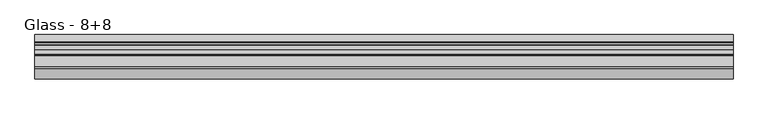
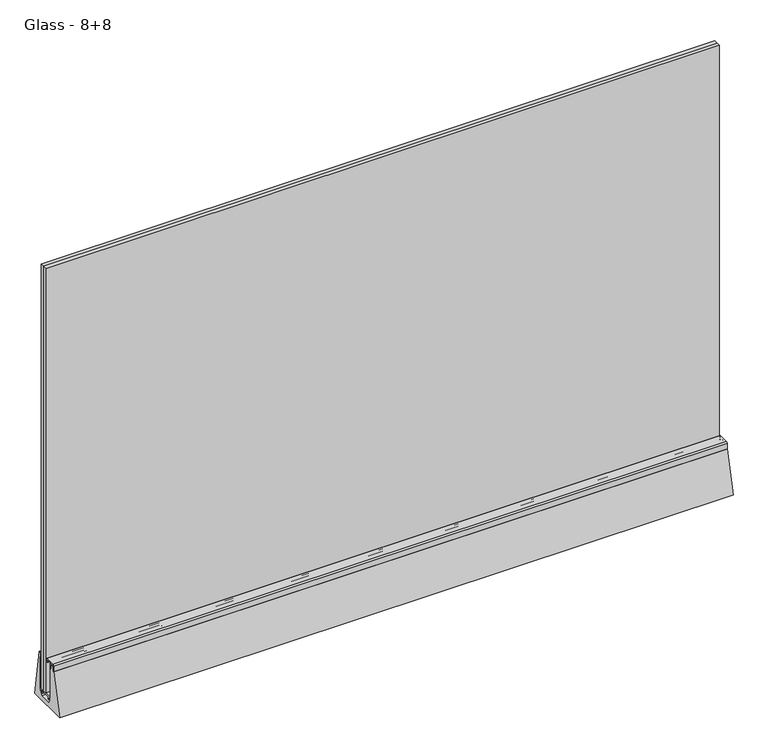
"""IFC4 building model written with IfcOpenShell, lengths in millimetres: proxy geometry, Construction_Slope-Glazing_Faraone_Linea-3-Mini : Glass - 8+8."""

from ifc_helpers import new_model, si_unit, point, frame, frame_2d, origin, place, context, project, spatial, polyline, circle_curve, trimmed, segment, composite_curve, outline, extrude, source, transform, mapped, element, save


def glass_8_8_7e68fb23(model_context):
    return source(origin(), model_context, "Body", "SweptSolid", [
        extrude(outline(polyline([(750.0, 23.8514845), (750.0, 15.9014845), (-750.0, 15.9014845), (-750.0, 23.8514845), (750.0, 23.8514845)])), frame((0.0, 0.0, 26.5097848), z_axis=(0.0, 0.0, 1.0), x_axis=(1.0, 0.0, 0.0)), (0.0, 0.0, 1.0), 1000.0),
        extrude(outline(polyline([(750.0, 14.3014845), (750.0, 6.3514845), (-750.0, 6.3514845), (-750.0, 14.3014845), (750.0, 14.3014845)])), frame((0.0, 0.0, 26.5097848), z_axis=(0.0, 0.0, 1.0), x_axis=(1.0, 0.0, 0.0)), (0.0, 0.0, 1.0), 1000.0),
        extrude(outline(polyline([(21.0027951, 21.0097848), (22.0027951, 21.0097848), (21.0027951, 17.5097848), (18.5027951, 17.5097848), (18.5027951, 23.5097848), (-3.4544609, 23.5097848), (-3.4544609, 17.5097848), (-5.9544609, 17.5097848), (-6.9542334, 21.0097848), (-5.9544609, 21.0097848), (-5.9544609, 23.5100571), (-8.9999952, 23.5100571), (-8.9999952, 26.5097848), (23.8514845, 26.5097848), (23.8514845, 98.7598945), (26.4955126, 98.7598945), (26.4955126, 23.5097848), (21.0027951, 23.5097848), (21.0027951, 21.0097848)])), frame((-750.0, 0.0, 0.0), z_axis=(1.0, 0.0, 0.0), x_axis=(0.0, 1.0, 0.0)), (0.0, 0.0, 1.0), 1500.0),
        extrude(outline(composite_curve([segment(trimmed(circle_curve(frame_2d((2.3741707, 109.8933639)), 0.5), [point((2.3741707, 110.3933639))], [point((2.8741707, 109.8933639))], False, "CARTESIAN"), True, "CONTINUOUS"), segment(polyline([(2.8741707, 109.8933639), (2.8741707, 107.7847909), (2.080513, 107.7847909), (2.080513, 109.0323883), (1.1824202, 109.0323883)]), True, "CONTINUOUS"), segment(trimmed(circle_curve(frame_2d((1.1824202, 108.5241255)), 0.5082627), [point((1.1824202, 109.0323883))], [point((0.6741575, 108.5241255))], True, "CARTESIAN"), True, "CONTINUOUS"), segment(polyline([(0.6741575, 108.5241255), (0.6741575, 104.040651)]), True, "CONTINUOUS"), segment(trimmed(circle_curve(frame_2d((1.1824202, 104.040651)), 0.5082627), [point((0.6741575, 104.040651))], [point((1.1824202, 103.5323883))], True, "CARTESIAN"), True, "CONTINUOUS"), segment(polyline([(1.1824202, 103.5323883), (2.080513, 103.5323883), (2.080513, 104.7799856), (2.8741707, 104.7799856), (2.8741707, 102.8323883)]), True, "CONTINUOUS"), segment(trimmed(circle_curve(frame_2d((2.3741707, 102.8323883)), 0.5), [point((2.8741707, 102.8323883))], [point((2.3741707, 102.3323883))], False, "CARTESIAN"), True, "CONTINUOUS"), segment(polyline([(2.3741707, 102.3323883), (-0.0258423, 102.3323883)]), True, "CONTINUOUS"), segment(trimmed(circle_curve(frame_2d((-0.0258423, 102.8323885)), 0.5000003), [point((-0.0258423, 102.3323883))], [point((-0.5258425, 102.8323885))], False, "CARTESIAN"), True, "CONTINUOUS"), segment(polyline([(-0.5258425, 102.8323885), (-0.5258425, 108.3933644)]), True, "CONTINUOUS"), segment(trimmed(circle_curve(frame_2d((-1.0258425, 108.3933644)), 0.5), [point((-0.5258425, 108.3933644))], [point((-1.0258425, 108.8933644))], True, "CARTESIAN"), True, "CONTINUOUS"), segment(polyline([(-1.0258425, 108.8933644), (-11.5017337, 108.8933644), (-11.5017337, 95.1380316), (-13.5888351, 95.1380316), (-13.5888351, 100.1818111), (-12.7017337, 100.1818111), (-12.7017337, 108.0933644)]), True, "CONTINUOUS"), segment(trimmed(circle_curve(frame_2d((-12.7017337, 108.4933644)), 0.4), [point((-12.7017337, 108.0933644))], [point((-12.7017337, 108.8933644))], True, "CARTESIAN"), True, "CONTINUOUS"), segment(polyline([(-12.7017337, 108.8933644), (-22.0267873, 108.8933644)]), True, "CONTINUOUS"), segment(trimmed(circle_curve(frame_2d((-22.0267873, 107.3933642)), 1.5000003), [point((-22.0267873, 108.8933644))], [point((-23.5267875, 107.3933642))], True, "CARTESIAN"), True, "CONTINUOUS"), segment(polyline([(-23.5267875, 107.3933642), (-23.5267875, 100.1818111), (-22.6462885, 100.1818111), (-22.6462885, 95.1374302), (-24.7267875, 95.1382255), (-24.7267875, 107.3933639)]), True, "CONTINUOUS"), segment(trimmed(circle_curve(frame_2d((-21.7267875, 107.3933639)), 3.0), [point((-24.7267875, 107.3933639))], [point((-21.7267875, 110.3933639))], False, "CARTESIAN"), True, "CONTINUOUS"), segment(polyline([(-21.7267875, 110.3933639), (2.3741707, 110.3933639)]), True, "CONTINUOUS")], self_intersect=False)), frame((-750.0, 0.0, 0.0), z_axis=(1.0, 0.0, 0.0), x_axis=(0.0, 1.0, 0.0)), (0.0, 0.0, 1.0), 1500.0),
        extrude(outline(composite_curve([segment(polyline([(-47.4987038, 0.0), (-24.7300487, 95.1378278), (-22.4744479, 95.1378278), (-22.4744479, 103.0050058), (-13.7606757, 103.0050058), (-13.7606757, 95.1380316), (-11.4999492, 95.1380316), (-11.4999492, 23.5100853), (-6.5000411, 23.5100853), (-6.5000411, 21.5106384), (-11.5002842, 21.5106384), (-6.3392177, 10.5100582), (21.4008273, 10.5098183), (26.8963028, 21.5099451), (21.4999589, 21.5099451), (21.4999589, 23.5097848), (26.4996909, 23.5097848), (26.4947523, 109.9810078), (30.5938434, 109.9810078)]), True, "CONTINUOUS"), segment(trimmed(circle_curve(frame_2d((30.5938434, 109.0417285)), 0.9392792), [point((30.5938434, 109.9810078))], [point((31.5233799, 109.1766636))], False, "CARTESIAN"), True, "CONTINUOUS"), segment(polyline([(31.5233799, 109.1766636), (47.3718822, 0.0), (-47.4987038, 0.0)]), True, "CONTINUOUS")], self_intersect=False)), frame((-750.0, 0.0, 0.0), z_axis=(1.0, 0.0, 0.0), x_axis=(0.0, 1.0, 0.0)), (0.0, 0.0, 1.0), 1500.0),
    ])


if __name__ == "__main__":
    model = new_model("IFC4")
    model_context = context("Model", 3, world=origin())
    ifc_project = project(units=[si_unit("LENGTHUNIT", "METRE", prefix="MILLI")], contexts=[model_context])
    site = spatial("IfcSite", under=ifc_project)
    building = spatial("IfcBuilding", under=site)
    placement = place(None, origin())
    glass_8_8_shape = glass_8_8_7e68fb23(model_context)
    element("IfcBuildingElementProxy", 1, Name="Construction_Slope-Glazing_Faraone_Linea-3-Mini : Glass - 8+8", ObjectType="Construction_Slope-Glazing_Faraone_Linea-3-Mini : Glass - 8+8", at=placement, inside=building, context=model_context, shape_type="MappedRepresentation", body=[
        mapped(glass_8_8_shape, transform((0.0, 0.0, 0.0), x_axis=(1.0, 0.0, 0.0), y_axis=(0.0, 1.0, 0.0), z_axis=(0.0, 0.0, 1.0))),
    ])
    save(model, "model.ifc")
